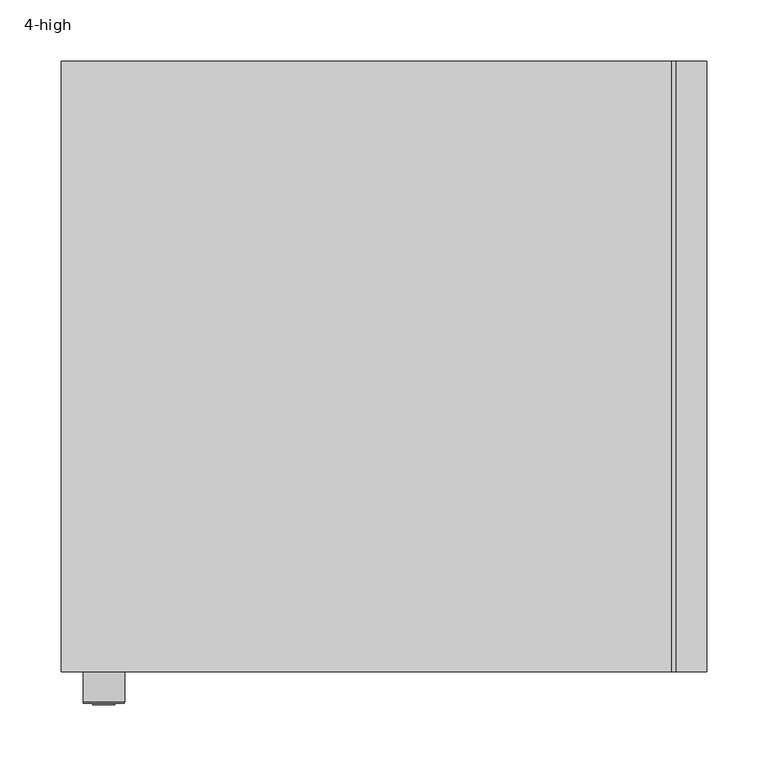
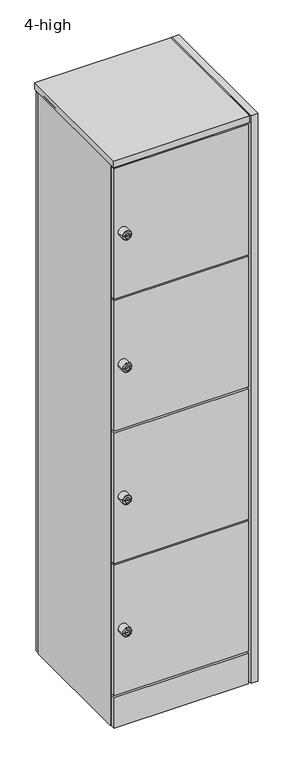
"""IFC4 building model written with IfcOpenShell, lengths in millimetres: furniture geometry, Furniture_Storage_Spacestor_SignatureHotLocker : 4-high."""

from ifc_helpers import new_model, si_unit, point, frame, origin, origin_with_axes, place, context, project, spatial, polyline, circle_curve, ellipse_curve, trimmed, outline, extrude, source, transform, mapped, element, save
from ifc_brep_helpers import plane_surface, cylinder_surface, revolved_surface, advanced_brep


def furniture_4_high_c314e3b5(model_context):
    return source(origin(), model_context, "Body", "SolidModel", [
        extrude(outline(polyline([(489.0, 0.0), (11.0, 0.0), (11.0, 459.0), (489.0, 459.0), (489.0, 0.0)])), frame((0.0, 0.0, 2158.5), z_axis=(0.0, 0.0, 1.0), x_axis=(1.0, 0.0, 0.0)), (0.0, 0.0, 1.0), 22.0),
        extrude(outline(polyline([(489.0, 0.0), (11.0, 0.0), (11.0, 459.0), (489.0, 459.0), (489.0, 0.0)])), frame((0.0, 0.0, 1646.5), z_axis=(0.0, 0.0, 1.0), x_axis=(1.0, 0.0, 0.0)), (0.0, 0.0, 1.0), 22.0),
        extrude(outline(polyline([(489.0, 0.0), (11.0, 0.0), (11.0, 459.0), (489.0, 459.0), (489.0, 0.0)])), frame((0.0, 0.0, 1134.5), z_axis=(0.0, 0.0, 1.0), x_axis=(1.0, 0.0, 0.0)), (0.0, 0.0, 1.0), 22.0),
        extrude(outline(polyline([(489.0, 0.0), (11.0, 0.0), (11.0, 459.0), (489.0, 459.0), (489.0, 0.0)])), frame((0.0, 0.0, 622.5), z_axis=(0.0, 0.0, 1.0), x_axis=(1.0, 0.0, 0.0)), (0.0, 0.0, 1.0), 22.0),
        advanced_brep(
        [(18.0, -45.3116344, 1913.5), (52.0, -45.3116344, 1913.5), (52.0, -18.0, 1913.5), (18.0, -18.0, 1913.5), (35.0, -18.0, 1913.5), (26.0252681, -46.3150077, 1913.5), (43.9747319, -46.3150077, 1913.5), (50.9966266, -46.3150077, 1913.5), (19.0033734, -46.3150077, 1913.5), (26.0252681, -47.4703043, 1913.5), (43.9747319, -47.4703043, 1913.5), (30.1754848, -47.4703043, 1913.5), (30.1754848, -47.4703043, 1914.8633438), (39.8245152, -47.4703043, 1914.8633438), (39.8245152, -47.4703043, 1913.5), (39.8245152, -47.4703043, 1912.1366562), (30.1754848, -47.4703043, 1912.1366562), (39.8245152, -27.8604291, 1914.8633438), (30.1754848, -27.8604291, 1914.8633438), (30.1754848, -27.8604291, 1912.1366562), (39.8245152, -27.8604291, 1912.1366562)],
        [
            (0, 1, circle_curve(frame((35.0, -45.3116344, 1913.5), z_axis=(0.0, 1.0, 0.0), x_axis=(1.0, 0.0, 0.0)), 17.0)),
            (1, 2),
            (2, 3, circle_curve(frame((35.0, -18.0, 1913.5), z_axis=(0.0, -1.0, 0.0), x_axis=(1.0, 0.0, 0.0)), 17.0)),
            (3, 0),
            (1, 0, circle_curve(frame((35.0, -45.3116344, 1913.5), z_axis=(0.0, 1.0, 0.0), x_axis=(1.0, 0.0, 0.0)), 17.0)),
            (3, 2, circle_curve(frame((35.0, -18.0, 1913.5), z_axis=(0.0, -1.0, 0.0), x_axis=(1.0, 0.0, 0.0)), 17.0)),
            (2, 4),
            (4, 3),
            (5, 6, circle_curve(frame((35.0, -46.3150077, 1913.5), z_axis=(0.0, 1.0, 0.0), x_axis=(1.0, 0.0, 0.0)), 8.9747319)),
            (6, 7),
            (7, 8, circle_curve(frame((35.0, -46.3150077, 1913.5), z_axis=(0.0, -1.0, 0.0), x_axis=(1.0, 0.0, 0.0)), 15.9966266)),
            (8, 5),
            (6, 5, circle_curve(frame((35.0, -46.3150077, 1913.5), z_axis=(0.0, 1.0, 0.0), x_axis=(1.0, 0.0, 0.0)), 8.9747319)),
            (8, 7, circle_curve(frame((35.0, -46.3150077, 1913.5), z_axis=(0.0, -1.0, 0.0), x_axis=(1.0, 0.0, 0.0)), 15.9966266)),
            (0, 8, circle_curve(frame((19.0033734, -45.3116344, 1913.5), z_axis=(0.0, 0.0, 1.0), x_axis=(-1.0, 0.0, 0.0)), 1.0033734)),
            (7, 1, circle_curve(frame((50.9966266, -45.3116344, 1913.5), z_axis=(0.0, 0.0, 1.0), x_axis=(1.0, 0.0, 0.0)), 1.0033734)),
            (5, 9),
            (9, 10, circle_curve(frame((35.0, -47.4703043, 1913.5), z_axis=(0.0, 1.0, 0.0), x_axis=(1.0, 0.0, 0.0)), 8.9747319)),
            (10, 6),
            (10, 9, circle_curve(frame((35.0, -47.4703043, 1913.5), z_axis=(0.0, 1.0, 0.0), x_axis=(1.0, 0.0, 0.0)), 8.9747319)),
            (9, 11),
            (11, 12),
            (12, 13),
            (13, 14),
            (14, 10),
            (14, 15),
            (15, 16),
            (16, 11),
            (17, 18),
            (18, 19),
            (19, 20),
            (20, 17),
            (17, 13),
            (12, 18),
            (16, 19),
            (15, 20),
        ],
        [
            cylinder_surface(frame((35.0, -2627.0581012, 1913.5), z_axis=(0.0, -1.0, 0.0), x_axis=(1.0, 0.0, 0.0)), 17.0),
            plane_surface(frame((35.0, -18.0, 1913.5), z_axis=(0.0, 1.0, 0.0), x_axis=(1.0, 0.0, 0.0))),
            plane_surface(frame((35.0, -46.3150077, 1913.5), z_axis=(0.0, -1.0, 0.0), x_axis=(1.0, 0.0, 0.0))),
            revolved_surface(trimmed(ellipse_curve(frame((50.9966266, -45.3116344, 1913.5), z_axis=(0.0, 0.0, -1.0), x_axis=(1.0, 0.0, 0.0)), 1.0033734, 1.0033734), [point((52.0, -45.3116344, 1913.5))], [point((50.9966266, -46.3150077, 1913.5))], True, "CARTESIAN"), (35.0, -2627.0581012, 1913.5), (0.0, -1.0, 0.0)),
            cylinder_surface(frame((35.0, -2627.0581012, 1913.5), z_axis=(0.0, -1.0, 0.0), x_axis=(1.0, 0.0, 0.0)), 8.9747319),
            plane_surface(frame((35.0, -47.4703043, 1913.5), z_axis=(0.0, -1.0, 0.0), x_axis=(1.0, 0.0, 0.0))),
            plane_surface(frame((30.5434751, -27.8604291, 1914.8633438), z_axis=(0.0, -1.0, 0.0), x_axis=(1.0, 0.0, 0.0))),
            plane_surface(frame((39.8245152, -49.2046383, 1914.8633438), z_axis=(0.0, 0.0, -1.0), x_axis=(0.0, 1.0, 0.0))),
            plane_surface(frame((30.1754848, -49.2046383, 1914.8633438), z_axis=(1.0, 0.0, 0.0), x_axis=(0.0, 1.0, 0.0))),
            plane_surface(frame((30.1754848, -49.2046383, 1912.1366562), z_axis=(0.0, 0.0, 1.0), x_axis=(0.0, 1.0, 0.0))),
            plane_surface(frame((39.8245152, -49.2046383, 1912.1366562), z_axis=(-1.0, 0.0, 0.0), x_axis=(0.0, 1.0, 0.0))),
        ],
        [
            (0, [[1, 2, 3, 4]]),
            (0, [[-2, 5, -4, 6]]),
            (1, [[-3, 7, 8]]),
            (1, [[-6, -8, -7]]),
            (2, [[9, 10, 11, 12]]),
            (2, [[-10, 13, -12, 14]]),
            (3, [[-1, 15, -11, 16]]),
            (3, [[-5, -16, -14, -15]]),
            (4, [[-9, 17, 18, 19]]),
            (4, [[-13, -19, 20, -17]]),
            (5, [[-18, 21, 22, 23, 24, 25]]),
            (5, [[-20, -25, 26, 27, 28, -21]]),
            (6, [[29, 30, 31, 32]]),
            (7, [[-29, 33, -23, 34]]),
            (8, [[-30, -34, -22, -28, 35]]),
            (9, [[-31, -35, -27, 36]]),
            (10, [[-32, -36, -26, -24, -33]]),
        ],
    ),
        advanced_brep(
        [(18.0, -45.3116344, 1401.5), (52.0, -45.3116344, 1401.5), (52.0, -18.0, 1401.5), (18.0, -18.0, 1401.5), (35.0, -18.0, 1401.5), (26.0252681, -46.3150077, 1401.5), (43.9747319, -46.3150077, 1401.5), (50.9966266, -46.3150077, 1401.5), (19.0033734, -46.3150077, 1401.5), (26.0252681, -47.4703043, 1401.5), (43.9747319, -47.4703043, 1401.5), (30.1754848, -47.4703043, 1401.5), (30.1754848, -47.4703043, 1402.8633438), (39.8245152, -47.4703043, 1402.8633438), (39.8245152, -47.4703043, 1401.5), (39.8245152, -47.4703043, 1400.1366562), (30.1754848, -47.4703043, 1400.1366562), (39.8245152, -27.8604291, 1402.8633438), (30.1754848, -27.8604291, 1402.8633438), (30.1754848, -27.8604291, 1400.1366562), (39.8245152, -27.8604291, 1400.1366562)],
        [
            (0, 1, circle_curve(frame((35.0, -45.3116344, 1401.5), z_axis=(0.0, 1.0, 0.0), x_axis=(1.0, 0.0, 0.0)), 17.0)),
            (1, 2),
            (2, 3, circle_curve(frame((35.0, -18.0, 1401.5), z_axis=(0.0, -1.0, 0.0), x_axis=(1.0, 0.0, 0.0)), 17.0)),
            (3, 0),
            (1, 0, circle_curve(frame((35.0, -45.3116344, 1401.5), z_axis=(0.0, 1.0, 0.0), x_axis=(1.0, 0.0, 0.0)), 17.0)),
            (3, 2, circle_curve(frame((35.0, -18.0, 1401.5), z_axis=(0.0, -1.0, 0.0), x_axis=(1.0, 0.0, 0.0)), 17.0)),
            (2, 4),
            (4, 3),
            (5, 6, circle_curve(frame((35.0, -46.3150077, 1401.5), z_axis=(0.0, 1.0, 0.0), x_axis=(1.0, 0.0, 0.0)), 8.9747319)),
            (6, 7),
            (7, 8, circle_curve(frame((35.0, -46.3150077, 1401.5), z_axis=(0.0, -1.0, 0.0), x_axis=(1.0, 0.0, 0.0)), 15.9966266)),
            (8, 5),
            (6, 5, circle_curve(frame((35.0, -46.3150077, 1401.5), z_axis=(0.0, 1.0, 0.0), x_axis=(1.0, 0.0, 0.0)), 8.9747319)),
            (8, 7, circle_curve(frame((35.0, -46.3150077, 1401.5), z_axis=(0.0, -1.0, 0.0), x_axis=(1.0, 0.0, 0.0)), 15.9966266)),
            (0, 8, circle_curve(frame((19.0033734, -45.3116344, 1401.5), z_axis=(0.0, 0.0, 1.0), x_axis=(-1.0, 0.0, 0.0)), 1.0033734)),
            (7, 1, circle_curve(frame((50.9966266, -45.3116344, 1401.5), z_axis=(0.0, 0.0, 1.0), x_axis=(1.0, 0.0, 0.0)), 1.0033734)),
            (5, 9),
            (9, 10, circle_curve(frame((35.0, -47.4703043, 1401.5), z_axis=(0.0, 1.0, 0.0), x_axis=(1.0, 0.0, 0.0)), 8.9747319)),
            (10, 6),
            (10, 9, circle_curve(frame((35.0, -47.4703043, 1401.5), z_axis=(0.0, 1.0, 0.0), x_axis=(1.0, 0.0, 0.0)), 8.9747319)),
            (9, 11),
            (11, 12),
            (12, 13),
            (13, 14),
            (14, 10),
            (14, 15),
            (15, 16),
            (16, 11),
            (17, 18),
            (18, 19),
            (19, 20),
            (20, 17),
            (17, 13),
            (12, 18),
            (16, 19),
            (15, 20),
        ],
        [
            cylinder_surface(frame((35.0, -2627.0581012, 1401.5), z_axis=(0.0, -1.0, 0.0), x_axis=(1.0, 0.0, 0.0)), 17.0),
            plane_surface(frame((35.0, -18.0, 1401.5), z_axis=(0.0, 1.0, 0.0), x_axis=(1.0, 0.0, 0.0))),
            plane_surface(frame((35.0, -46.3150077, 1401.5), z_axis=(0.0, -1.0, 0.0), x_axis=(1.0, 0.0, 0.0))),
            revolved_surface(trimmed(ellipse_curve(frame((50.9966266, -45.3116344, 1401.5), z_axis=(0.0, 0.0, -1.0), x_axis=(1.0, 0.0, 0.0)), 1.0033734, 1.0033734), [point((52.0, -45.3116344, 1401.5))], [point((50.9966266, -46.3150077, 1401.5))], True, "CARTESIAN"), (35.0, -2627.0581012, 1401.5), (0.0, -1.0, 0.0)),
            cylinder_surface(frame((35.0, -2627.0581012, 1401.5), z_axis=(0.0, -1.0, 0.0), x_axis=(1.0, 0.0, 0.0)), 8.9747319),
            plane_surface(frame((35.0, -47.4703043, 1401.5), z_axis=(0.0, -1.0, 0.0), x_axis=(1.0, 0.0, 0.0))),
            plane_surface(frame((30.5434751, -27.8604291, 1402.8633438), z_axis=(0.0, -1.0, 0.0), x_axis=(1.0, 0.0, 0.0))),
            plane_surface(frame((39.8245152, -49.2046383, 1402.8633438), z_axis=(0.0, 0.0, -1.0), x_axis=(0.0, 1.0, 0.0))),
            plane_surface(frame((30.1754848, -49.2046383, 1402.8633438), z_axis=(1.0, 0.0, 0.0), x_axis=(0.0, 1.0, 0.0))),
            plane_surface(frame((30.1754848, -49.2046383, 1400.1366562), z_axis=(0.0, 0.0, 1.0), x_axis=(0.0, 1.0, 0.0))),
            plane_surface(frame((39.8245152, -49.2046383, 1400.1366562), z_axis=(-1.0, 0.0, 0.0), x_axis=(0.0, 1.0, 0.0))),
        ],
        [
            (0, [[1, 2, 3, 4]]),
            (0, [[-2, 5, -4, 6]]),
            (1, [[-3, 7, 8]]),
            (1, [[-6, -8, -7]]),
            (2, [[9, 10, 11, 12]]),
            (2, [[-10, 13, -12, 14]]),
            (3, [[-1, 15, -11, 16]]),
            (3, [[-5, -16, -14, -15]]),
            (4, [[-9, 17, 18, 19]]),
            (4, [[-13, -19, 20, -17]]),
            (5, [[-18, 21, 22, 23, 24, 25]]),
            (5, [[-20, -25, 26, 27, 28, -21]]),
            (6, [[29, 30, 31, 32]]),
            (7, [[-29, 33, -23, 34]]),
            (8, [[-30, -34, -22, -28, 35]]),
            (9, [[-31, -35, -27, 36]]),
            (10, [[-32, -36, -26, -24, -33]]),
        ],
    ),
        advanced_brep(
        [(18.0, -45.3116344, 889.5), (52.0, -45.3116344, 889.5), (52.0, -18.0, 889.5), (18.0, -18.0, 889.5), (35.0, -18.0, 889.5), (26.0252681, -46.3150077, 889.5), (43.9747319, -46.3150077, 889.5), (50.9966266, -46.3150077, 889.5), (19.0033734, -46.3150077, 889.5), (26.0252681, -47.4703043, 889.5), (43.9747319, -47.4703043, 889.5), (30.1754848, -47.4703043, 889.5), (30.1754848, -47.4703043, 890.8633438), (39.8245152, -47.4703043, 890.8633438), (39.8245152, -47.4703043, 889.5), (39.8245152, -47.4703043, 888.1366562), (30.1754848, -47.4703043, 888.1366562), (39.8245152, -27.8604291, 890.8633438), (30.1754848, -27.8604291, 890.8633438), (30.1754848, -27.8604291, 888.1366562), (39.8245152, -27.8604291, 888.1366562)],
        [
            (0, 1, circle_curve(frame((35.0, -45.3116344, 889.5), z_axis=(0.0, 1.0, 0.0), x_axis=(1.0, 0.0, 0.0)), 17.0)),
            (1, 2),
            (2, 3, circle_curve(frame((35.0, -18.0, 889.5), z_axis=(0.0, -1.0, 0.0), x_axis=(1.0, 0.0, 0.0)), 17.0)),
            (3, 0),
            (1, 0, circle_curve(frame((35.0, -45.3116344, 889.5), z_axis=(0.0, 1.0, 0.0), x_axis=(1.0, 0.0, 0.0)), 17.0)),
            (3, 2, circle_curve(frame((35.0, -18.0, 889.5), z_axis=(0.0, -1.0, 0.0), x_axis=(1.0, 0.0, 0.0)), 17.0)),
            (2, 4),
            (4, 3),
            (5, 6, circle_curve(frame((35.0, -46.3150077, 889.5), z_axis=(0.0, 1.0, 0.0), x_axis=(1.0, 0.0, 0.0)), 8.9747319)),
            (6, 7),
            (7, 8, circle_curve(frame((35.0, -46.3150077, 889.5), z_axis=(0.0, -1.0, 0.0), x_axis=(1.0, 0.0, 0.0)), 15.9966266)),
            (8, 5),
            (6, 5, circle_curve(frame((35.0, -46.3150077, 889.5), z_axis=(0.0, 1.0, 0.0), x_axis=(1.0, 0.0, 0.0)), 8.9747319)),
            (8, 7, circle_curve(frame((35.0, -46.3150077, 889.5), z_axis=(0.0, -1.0, 0.0), x_axis=(1.0, 0.0, 0.0)), 15.9966266)),
            (0, 8, circle_curve(frame((19.0033734, -45.3116344, 889.5), z_axis=(0.0, 0.0, 1.0), x_axis=(-1.0, 0.0, 0.0)), 1.0033734)),
            (7, 1, circle_curve(frame((50.9966266, -45.3116344, 889.5), z_axis=(0.0, 0.0, 1.0), x_axis=(1.0, 0.0, 0.0)), 1.0033734)),
            (5, 9),
            (9, 10, circle_curve(frame((35.0, -47.4703043, 889.5), z_axis=(0.0, 1.0, 0.0), x_axis=(1.0, 0.0, 0.0)), 8.9747319)),
            (10, 6),
            (10, 9, circle_curve(frame((35.0, -47.4703043, 889.5), z_axis=(0.0, 1.0, 0.0), x_axis=(1.0, 0.0, 0.0)), 8.9747319)),
            (9, 11),
            (11, 12),
            (12, 13),
            (13, 14),
            (14, 10),
            (14, 15),
            (15, 16),
            (16, 11),
            (17, 18),
            (18, 19),
            (19, 20),
            (20, 17),
            (17, 13),
            (12, 18),
            (16, 19),
            (15, 20),
        ],
        [
            cylinder_surface(frame((35.0, -2627.0581012, 889.5), z_axis=(0.0, -1.0, 0.0), x_axis=(1.0, 0.0, 0.0)), 17.0),
            plane_surface(frame((35.0, -18.0, 889.5), z_axis=(0.0, 1.0, 0.0), x_axis=(1.0, 0.0, 0.0))),
            plane_surface(frame((35.0, -46.3150077, 889.5), z_axis=(0.0, -1.0, 0.0), x_axis=(1.0, 0.0, 0.0))),
            revolved_surface(trimmed(ellipse_curve(frame((50.9966266, -45.3116344, 889.5), z_axis=(0.0, 0.0, -1.0), x_axis=(1.0, 0.0, 0.0)), 1.0033734, 1.0033734), [point((52.0, -45.3116344, 889.5))], [point((50.9966266, -46.3150077, 889.5))], True, "CARTESIAN"), (35.0, -2627.0581012, 889.5), (0.0, -1.0, 0.0)),
            cylinder_surface(frame((35.0, -2627.0581012, 889.5), z_axis=(0.0, -1.0, 0.0), x_axis=(1.0, 0.0, 0.0)), 8.9747319),
            plane_surface(frame((35.0, -47.4703043, 889.5), z_axis=(0.0, -1.0, 0.0), x_axis=(1.0, 0.0, 0.0))),
            plane_surface(frame((30.5434751, -27.8604291, 890.8633438), z_axis=(0.0, -1.0, 0.0), x_axis=(1.0, 0.0, 0.0))),
            plane_surface(frame((39.8245152, -49.2046383, 890.8633438), z_axis=(0.0, 0.0, -1.0), x_axis=(0.0, 1.0, 0.0))),
            plane_surface(frame((30.1754848, -49.2046383, 890.8633438), z_axis=(1.0, 0.0, 0.0), x_axis=(0.0, 1.0, 0.0))),
            plane_surface(frame((30.1754848, -49.2046383, 888.1366562), z_axis=(0.0, 0.0, 1.0), x_axis=(0.0, 1.0, 0.0))),
            plane_surface(frame((39.8245152, -49.2046383, 888.1366562), z_axis=(-1.0, 0.0, 0.0), x_axis=(0.0, 1.0, 0.0))),
        ],
        [
            (0, [[1, 2, 3, 4]]),
            (0, [[-2, 5, -4, 6]]),
            (1, [[-3, 7, 8]]),
            (1, [[-6, -8, -7]]),
            (2, [[9, 10, 11, 12]]),
            (2, [[-10, 13, -12, 14]]),
            (3, [[-1, 15, -11, 16]]),
            (3, [[-5, -16, -14, -15]]),
            (4, [[-9, 17, 18, 19]]),
            (4, [[-13, -19, 20, -17]]),
            (5, [[-18, 21, 22, 23, 24, 25]]),
            (5, [[-20, -25, 26, 27, 28, -21]]),
            (6, [[29, 30, 31, 32]]),
            (7, [[-29, 33, -23, 34]]),
            (8, [[-30, -34, -22, -28, 35]]),
            (9, [[-31, -35, -27, 36]]),
            (10, [[-32, -36, -26, -24, -33]]),
        ],
    ),
        advanced_brep(
        [(18.0, -45.3116344, 377.5), (52.0, -45.3116344, 377.5), (52.0, -18.0, 377.5), (18.0, -18.0, 377.5), (35.0, -18.0, 377.5), (26.0252681, -46.3150077, 377.5), (43.9747319, -46.3150077, 377.5), (50.9966266, -46.3150077, 377.5), (19.0033734, -46.3150077, 377.5), (26.0252681, -47.4703043, 377.5), (43.9747319, -47.4703043, 377.5), (30.1754848, -47.4703043, 377.5), (30.1754848, -47.4703043, 378.8633438), (39.8245152, -47.4703043, 378.8633438), (39.8245152, -47.4703043, 377.5), (39.8245152, -47.4703043, 376.1366562), (30.1754848, -47.4703043, 376.1366562), (39.8245152, -27.8604291, 378.8633438), (30.1754848, -27.8604291, 378.8633438), (30.1754848, -27.8604291, 376.1366562), (39.8245152, -27.8604291, 376.1366562)],
        [
            (0, 1, circle_curve(frame((35.0, -45.3116344, 377.5), z_axis=(0.0, 1.0, 0.0), x_axis=(1.0, 0.0, 0.0)), 17.0)),
            (1, 2),
            (2, 3, circle_curve(frame((35.0, -18.0, 377.5), z_axis=(0.0, -1.0, 0.0), x_axis=(1.0, 0.0, 0.0)), 17.0)),
            (3, 0),
            (1, 0, circle_curve(frame((35.0, -45.3116344, 377.5), z_axis=(0.0, 1.0, 0.0), x_axis=(1.0, 0.0, 0.0)), 17.0)),
            (3, 2, circle_curve(frame((35.0, -18.0, 377.5), z_axis=(0.0, -1.0, 0.0), x_axis=(1.0, 0.0, 0.0)), 17.0)),
            (2, 4),
            (4, 3),
            (5, 6, circle_curve(frame((35.0, -46.3150077, 377.5), z_axis=(0.0, 1.0, 0.0), x_axis=(1.0, 0.0, 0.0)), 8.9747319)),
            (6, 7),
            (7, 8, circle_curve(frame((35.0, -46.3150077, 377.5), z_axis=(0.0, -1.0, 0.0), x_axis=(1.0, 0.0, 0.0)), 15.9966266)),
            (8, 5),
            (6, 5, circle_curve(frame((35.0, -46.3150077, 377.5), z_axis=(0.0, 1.0, 0.0), x_axis=(1.0, 0.0, 0.0)), 8.9747319)),
            (8, 7, circle_curve(frame((35.0, -46.3150077, 377.5), z_axis=(0.0, -1.0, 0.0), x_axis=(1.0, 0.0, 0.0)), 15.9966266)),
            (0, 8, circle_curve(frame((19.0033734, -45.3116344, 377.5), z_axis=(0.0, 0.0, 1.0), x_axis=(-1.0, 0.0, 0.0)), 1.0033734)),
            (7, 1, circle_curve(frame((50.9966266, -45.3116344, 377.5), z_axis=(0.0, 0.0, 1.0), x_axis=(1.0, 0.0, 0.0)), 1.0033734)),
            (5, 9),
            (9, 10, circle_curve(frame((35.0, -47.4703043, 377.5), z_axis=(0.0, 1.0, 0.0), x_axis=(1.0, 0.0, 0.0)), 8.9747319)),
            (10, 6),
            (10, 9, circle_curve(frame((35.0, -47.4703043, 377.5), z_axis=(0.0, 1.0, 0.0), x_axis=(1.0, 0.0, 0.0)), 8.9747319)),
            (9, 11),
            (11, 12),
            (12, 13),
            (13, 14),
            (14, 10),
            (14, 15),
            (15, 16),
            (16, 11),
            (17, 18),
            (18, 19),
            (19, 20),
            (20, 17),
            (17, 13),
            (12, 18),
            (16, 19),
            (15, 20),
        ],
        [
            cylinder_surface(frame((35.0, -2627.0581012, 377.5), z_axis=(0.0, -1.0, 0.0), x_axis=(1.0, 0.0, 0.0)), 17.0),
            plane_surface(frame((35.0, -18.0, 377.5), z_axis=(0.0, 1.0, 0.0), x_axis=(1.0, 0.0, 0.0))),
            plane_surface(frame((35.0, -46.3150077, 377.5), z_axis=(0.0, -1.0, 0.0), x_axis=(1.0, 0.0, 0.0))),
            revolved_surface(trimmed(ellipse_curve(frame((50.9966266, -45.3116344, 377.5), z_axis=(0.0, 0.0, -1.0), x_axis=(1.0, 0.0, 0.0)), 1.0033734, 1.0033734), [point((52.0, -45.3116344, 377.5))], [point((50.9966266, -46.3150077, 377.5))], True, "CARTESIAN"), (35.0, -2627.0581012, 377.5), (0.0, -1.0, 0.0)),
            cylinder_surface(frame((35.0, -2627.0581012, 377.5), z_axis=(0.0, -1.0, 0.0), x_axis=(1.0, 0.0, 0.0)), 8.9747319),
            plane_surface(frame((35.0, -47.4703043, 377.5), z_axis=(0.0, -1.0, 0.0), x_axis=(1.0, 0.0, 0.0))),
            plane_surface(frame((30.5434751, -27.8604291, 378.8633438), z_axis=(0.0, -1.0, 0.0), x_axis=(1.0, 0.0, 0.0))),
            plane_surface(frame((39.8245152, -49.2046383, 378.8633438), z_axis=(0.0, 0.0, -1.0), x_axis=(0.0, 1.0, 0.0))),
            plane_surface(frame((30.1754848, -49.2046383, 378.8633438), z_axis=(1.0, 0.0, 0.0), x_axis=(0.0, 1.0, 0.0))),
            plane_surface(frame((30.1754848, -49.2046383, 376.1366562), z_axis=(0.0, 0.0, 1.0), x_axis=(0.0, 1.0, 0.0))),
            plane_surface(frame((39.8245152, -49.2046383, 376.1366562), z_axis=(-1.0, 0.0, 0.0), x_axis=(0.0, 1.0, 0.0))),
        ],
        [
            (0, [[1, 2, 3, 4]]),
            (0, [[-2, 5, -4, 6]]),
            (1, [[-3, 7, 8]]),
            (1, [[-6, -8, -7]]),
            (2, [[9, 10, 11, 12]]),
            (2, [[-10, 13, -12, 14]]),
            (3, [[-1, 15, -11, 16]]),
            (3, [[-5, -16, -14, -15]]),
            (4, [[-9, 17, 18, 19]]),
            (4, [[-13, -19, 20, -17]]),
            (5, [[-18, 21, 22, 23, 24, 25]]),
            (5, [[-20, -25, 26, 27, 28, -21]]),
            (6, [[29, 30, 31, 32]]),
            (7, [[-29, 33, -23, 34]]),
            (8, [[-30, -34, -22, -28, 35]]),
            (9, [[-31, -35, -27, 36]]),
            (10, [[-32, -36, -26, -24, -33]]),
        ],
    ),
        extrude(outline(polyline([(496.5, -18.0), (3.5, -18.0), (3.5, 0.0), (496.5, 0.0), (496.5, -18.0)])), frame((0.0, 0.0, 1661.0), z_axis=(0.0, 0.0, 1.0), x_axis=(1.0, 0.0, 0.0)), (0.0, 0.0, 1.0), 505.0),
        extrude(outline(polyline([(496.5, -18.0), (3.5, -18.0), (3.5, 0.0), (496.5, 0.0), (496.5, -18.0)])), frame((0.0, 0.0, 1149.0), z_axis=(0.0, 0.0, 1.0), x_axis=(1.0, 0.0, 0.0)), (0.0, 0.0, 1.0), 505.0),
        extrude(outline(polyline([(496.5, -18.0), (3.5, -18.0), (3.5, 0.0), (496.5, 0.0), (496.5, -18.0)])), frame((0.0, 0.0, 637.0), z_axis=(0.0, 0.0, 1.0), x_axis=(1.0, 0.0, 0.0)), (0.0, 0.0, 1.0), 505.0),
        extrude(outline(polyline([(496.5, -18.0), (3.5, -18.0), (3.5, 0.0), (496.5, 0.0), (496.5, -18.0)])), frame((0.0, 0.0, 125.0), z_axis=(0.0, 0.0, 1.0), x_axis=(1.0, 0.0, 0.0)), (0.0, 0.0, 1.0), 505.0),
        extrude(outline(polyline([(489.0, 0.0), (11.0, 0.0), (11.0, 459.0), (489.0, 459.0), (489.0, 0.0)])), frame((0.0, 0.0, 110.5), z_axis=(0.0, 0.0, 1.0), x_axis=(1.0, 0.0, 0.0)), (0.0, 0.0, 1.0), 22.0),
        extrude(outline(polyline([(503.5, -20.5), (500.0, -20.5), (500.0, 479.5), (503.5, 479.5), (503.5, -20.5)])), frame((0.0, 0.0, 2173.0), z_axis=(0.0, 0.0, 1.0), x_axis=(1.0, 0.0, 0.0)), (0.0, 0.0, 1.0), 25.5),
        extrude(outline(polyline([(496.5, 459.0), (3.5, 459.0), (3.5, 477.0), (496.5, 477.0), (496.5, 459.0)])), origin_with_axes(), (0.0, 0.0, 1.0), 2166.0),
        extrude(outline(polyline([(496.5, -18.0), (3.5, -18.0), (3.5, 0.0), (496.5, 0.0), (496.5, -18.0)])), origin_with_axes(), (0.0, 0.0, 1.0), 118.0),
        extrude(outline(polyline([(500.0, -20.5), (0.0, -20.5), (0.0, 479.5), (500.0, 479.5), (500.0, -20.5)])), frame((0.0, 0.0, 2173.0), z_axis=(0.0, 0.0, 1.0), x_axis=(1.0, 0.0, 0.0)), (0.0, 0.0, 1.0), 25.5),
        extrude(outline(polyline([(503.5, 479.5), (529.0, 479.5), (529.0, -20.5), (503.5, -20.5), (503.5, 479.5)])), origin_with_axes(), (0.0, 0.0, 1.0), 2198.5),
        extrude(outline(polyline([(511.0, 0.0), (500.0, 0.0), (500.0, 459.0), (511.0, 459.0), (511.0, 0.0)])), origin_with_axes(), (0.0, 0.0, 1.0), 2180.5),
        extrude(outline(polyline([(500.0, 0.0), (489.0, 0.0), (489.0, 459.0), (500.0, 459.0), (500.0, 0.0)])), origin_with_axes(), (0.0, 0.0, 1.0), 2180.5),
        extrude(outline(polyline([(11.0, 0.0), (0.0, 0.0), (0.0, 459.0), (11.0, 459.0), (11.0, 0.0)])), origin_with_axes(), (0.0, 0.0, 1.0), 2180.5),
    ])


if __name__ == "__main__":
    model = new_model("IFC4")
    model_context = context("Model", 3, world=origin())
    ifc_project = project(units=[si_unit("LENGTHUNIT", "METRE", prefix="MILLI")], contexts=[model_context])
    site = spatial("IfcSite", under=ifc_project)
    building = spatial("IfcBuilding", under=site)
    placement = place(None, origin())
    furniture_4_high_shape = furniture_4_high_c314e3b5(model_context)
    element("IfcFurniture", 1, ObjectType="Furniture_Storage_Spacestor_SignatureHotLocker : 4-high", at=placement, inside=building, context=model_context, shape_type="MappedRepresentation", body=[
        mapped(furniture_4_high_shape, transform((0.0, 0.0, 0.0), x_axis=(1.0, 0.0, 0.0), y_axis=(0.0, 1.0, 0.0), z_axis=(0.0, 0.0, 1.0))),
    ])
    save(model, "model.ifc")
